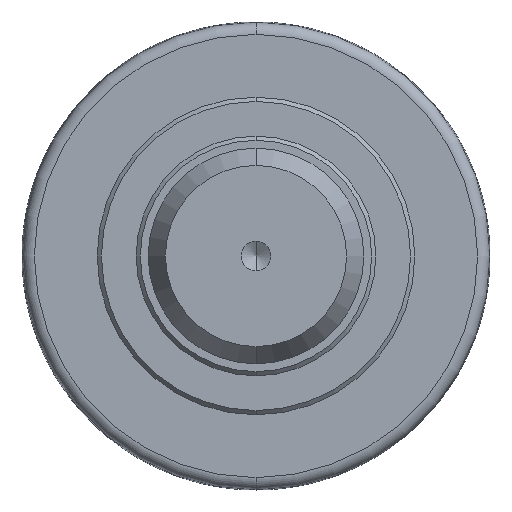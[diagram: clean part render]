
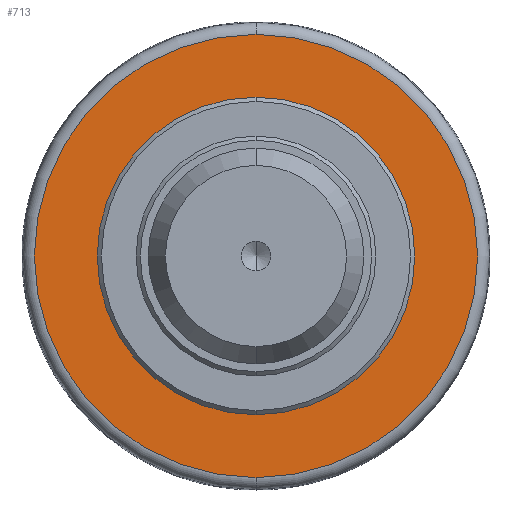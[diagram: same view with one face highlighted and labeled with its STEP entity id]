
A CAD part, left-side view. The second image highlights one B-rep face of the part: STEP entity #713.
In plain terms, the highlighted planar face has unit normal (-1, 0, 0).
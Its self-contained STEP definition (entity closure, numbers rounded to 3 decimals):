
#61 = DIRECTION ( 'NONE',  ( 1., 0., 0. ) ) ;
#65 = DIRECTION ( 'NONE',  ( 0., 0., -1. ) ) ;
#85 = CARTESIAN_POINT ( 'NONE',  ( -2., 0., 0. ) ) ;
#112 = EDGE_CURVE ( 'NONE', #394, #541, #213, .T. ) ;
#157 = DIRECTION ( 'NONE',  ( 1., 0., 0. ) ) ;
#177 = AXIS2_PLACEMENT_3D ( 'NONE', #85, #318, #880 ) ;
#210 = EDGE_CURVE ( 'NONE', #530, #615, #341, .T. ) ;
#213 = CIRCLE ( 'NONE', #345, 26. ) ;
#234 = AXIS2_PLACEMENT_3D ( 'NONE', #501, #925, #449 ) ;
#246 = FACE_OUTER_BOUND ( 'NONE', #392, .T. ) ;
#251 = EDGE_LOOP ( 'NONE', ( #505, #662 ) ) ;
#252 = CARTESIAN_POINT ( 'NONE',  ( -2., 0., 0. ) ) ;
#269 = CIRCLE ( 'NONE', #388, 26. ) ;
#285 = FACE_BOUND ( 'NONE', #251, .T. ) ;
#300 = CIRCLE ( 'NONE', #177, 36.985 ) ;
#318 = DIRECTION ( 'NONE',  ( 1., 0., 0. ) ) ;
#338 = ORIENTED_EDGE ( 'NONE', *, *, #424, .F. ) ;
#341 = CIRCLE ( 'NONE', #234, 36.985 ) ;
#345 = AXIS2_PLACEMENT_3D ( 'NONE', #601, #157, #458 ) ;
#388 = AXIS2_PLACEMENT_3D ( 'NONE', #252, #61, #65 ) ;
#392 = EDGE_LOOP ( 'NONE', ( #415, #338 ) ) ;
#394 = VERTEX_POINT ( 'NONE', #896 ) ;
#415 = ORIENTED_EDGE ( 'NONE', *, *, #210, .F. ) ;
#424 = EDGE_CURVE ( 'NONE', #615, #530, #300, .T. ) ;
#439 = CARTESIAN_POINT ( 'NONE',  ( -2., 0., 36.985 ) ) ;
#449 = DIRECTION ( 'NONE',  ( 0., 0., -1. ) ) ;
#458 = DIRECTION ( 'NONE',  ( 0., 0., -1. ) ) ;
#501 = CARTESIAN_POINT ( 'NONE',  ( -2., 0., 0. ) ) ;
#505 = ORIENTED_EDGE ( 'NONE', *, *, #112, .T. ) ;
#530 = VERTEX_POINT ( 'NONE', #927 ) ;
#541 = VERTEX_POINT ( 'NONE', #861 ) ;
#556 = DIRECTION ( 'NONE',  ( 0., 0., 1. ) ) ;
#562 = DIRECTION ( 'NONE',  ( -1., 0., 0. ) ) ;
#601 = CARTESIAN_POINT ( 'NONE',  ( -2., 0., 0. ) ) ;
#615 = VERTEX_POINT ( 'NONE', #439 ) ;
#651 = PLANE ( 'NONE',  #789 ) ;
#662 = ORIENTED_EDGE ( 'NONE', *, *, #812, .T. ) ;
#663 = CARTESIAN_POINT ( 'NONE',  ( -2., 36.985, 0. ) ) ;
#713 = ADVANCED_FACE ( 'NONE', ( #285, #246 ), #651, .T. ) ;
#789 = AXIS2_PLACEMENT_3D ( 'NONE', #663, #562, #556 ) ;
#812 = EDGE_CURVE ( 'NONE', #541, #394, #269, .T. ) ;
#861 = CARTESIAN_POINT ( 'NONE',  ( -2., 0., 26. ) ) ;
#880 = DIRECTION ( 'NONE',  ( 0., 0., -1. ) ) ;
#896 = CARTESIAN_POINT ( 'NONE',  ( -2., 0., -26. ) ) ;
#925 = DIRECTION ( 'NONE',  ( 1., 0., 0. ) ) ;
#927 = CARTESIAN_POINT ( 'NONE',  ( -2., 0., -36.985 ) ) ;
